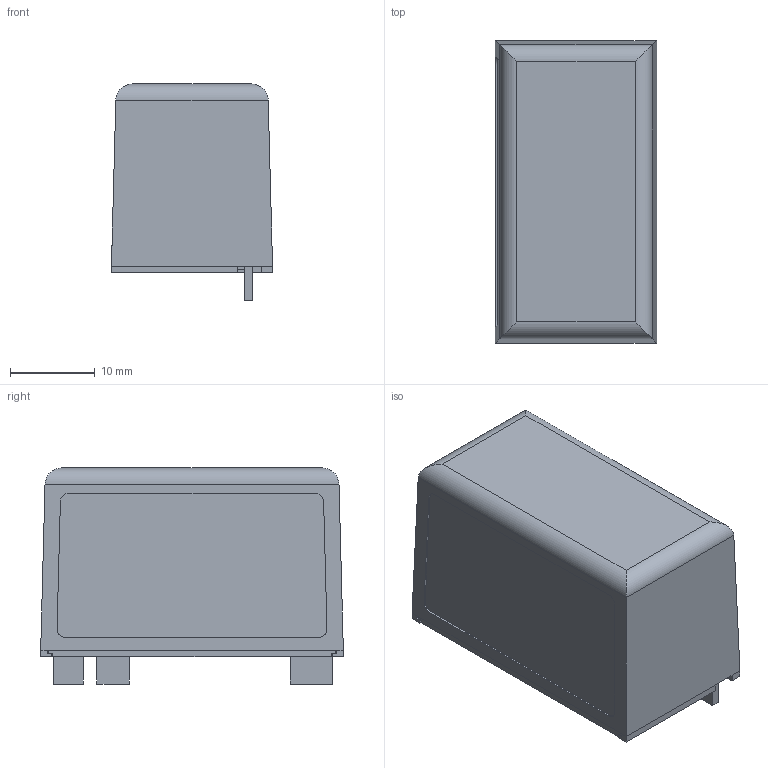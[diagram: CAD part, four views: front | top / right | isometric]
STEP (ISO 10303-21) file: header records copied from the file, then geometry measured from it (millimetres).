
FILE_DESCRIPTION((''),'2;1');
FILE_NAME('AIC_ASM','2016-02-02T',('arch'),(''),'PRO/ENGINEER BY PARAMETRIC TECHNOLOGY CORPORATION, 2008380','PRO/ENGINEER BY PARAMETRIC TECHNOLOGY CORPORATION, 2008380','');
FILE_SCHEMA(('AUTOMOTIVE_DESIGN { 1 2 10303 214 0 1 1 1 }'));
Length unit declared in the file: millimetre
Products named in the file (7): PCB; AIC______1; AIC____; ASM0001_ASM_ASM_ASM; ASM0001_ASM_ASM; AIC_ASM_ASM_ASM; AIC_ASM
Assembly tree (6 placements, depth 5):
  AIC_ASM
    AIC_ASM_ASM_ASM
      ASM0001_ASM_ASM
        ASM0001_ASM_ASM_ASM
          PCB
          AIC______1
          AIC____
Bounding box: 19 x 35.7 x 25.5 mm (x, y, z)
Volume: 4004.8 mm3; surface area: 8430.7 mm2
Topology: 3 solids, 3 shells, 104 faces, 257 edges, 164 vertices
Faces by surface type: plane 87, cylinder 17
Entity records: 3473 total; most frequent: CARTESIAN_POINT 692, ORIENTED_EDGE 514, DIRECTION 501, EDGE_CURVE 257, VECTOR 225, LINE 225, VERTEX_POINT 164, AXIS2_PLACEMENT_3D 138
